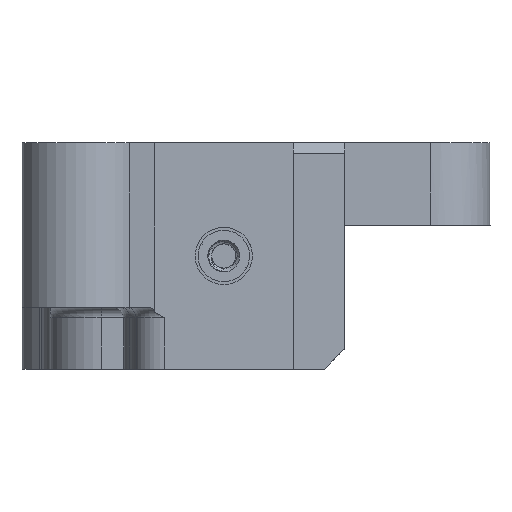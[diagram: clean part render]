
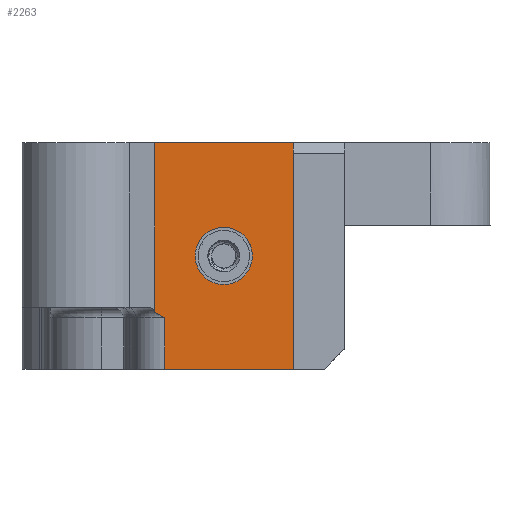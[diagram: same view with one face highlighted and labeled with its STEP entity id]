
A CAD part, front view. The second image highlights one B-rep face of the part: STEP entity #2263.
In plain terms, the highlighted planar face has unit normal (0, -1, 0).
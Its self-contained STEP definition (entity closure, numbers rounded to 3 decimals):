
#2230=AXIS2_PLACEMENT_3D('Plane Axis2P3D',#2227,#2228,#2229) ;
#2247=AXIS2_PLACEMENT_3D('Circle Axis2P3D',#2245,#2246,$) ;
#2256=AXIS2_PLACEMENT_3D('Circle Axis2P3D',#2254,#2255,$) ;
#434=CARTESIAN_POINT('Vertex',(20.64,-16.8,0.)) ;
#437=CARTESIAN_POINT('Line Origine',(14.392,-16.8,0.)) ;
#441=CARTESIAN_POINT('Vertex',(8.144,-16.8,0.)) ;
#490=CARTESIAN_POINT('Vertex',(20.64,-16.8,22.)) ;
#493=CARTESIAN_POINT('Line Origine',(20.64,-16.8,11.)) ;
#896=CARTESIAN_POINT('Vertex',(7.159,-16.8,22.)) ;
#919=CARTESIAN_POINT('Vertex',(7.159,-16.8,5.538)) ;
#922=CARTESIAN_POINT('Line Origine',(7.159,-16.8,13.769)) ;
#1360=CARTESIAN_POINT('Control Point',(7.159,-16.8,5.538)) ;
#1361=CARTESIAN_POINT('Control Point',(7.502,-16.8,5.371)) ;
#1362=CARTESIAN_POINT('Control Point',(7.823,-16.8,5.185)) ;
#1363=CARTESIAN_POINT('Control Point',(8.144,-16.8,5.)) ;
#1364=CARTESIAN_POINT('Vertex',(8.144,-16.8,5.)) ;
#1390=CARTESIAN_POINT('Line Origine',(8.144,-16.8,2.34)) ;
#2227=CARTESIAN_POINT('Axis2P3D Location',(20.64,-16.8,22.)) ;
#2232=CARTESIAN_POINT('Line Origine',(13.9,-16.8,22.)) ;
#2245=CARTESIAN_POINT('Axis2P3D Location',(13.88,-16.8,11.)) ;
#2249=CARTESIAN_POINT('Vertex',(16.074,-16.8,9.801)) ;
#2251=CARTESIAN_POINT('Vertex',(11.686,-16.8,12.199)) ;
#2254=CARTESIAN_POINT('Axis2P3D Location',(13.88,-16.8,11.)) ;
#438=DIRECTION('Vector Direction',(-1.,0.,0.)) ;
#494=DIRECTION('Vector Direction',(0.,0.,-1.)) ;
#923=DIRECTION('Vector Direction',(0.,0.,1.)) ;
#1391=DIRECTION('Vector Direction',(0.,0.,-1.)) ;
#2228=DIRECTION('Axis2P3D Direction',(0.,-1.,0.)) ;
#2229=DIRECTION('Axis2P3D XDirection',(-1.,0.,0.)) ;
#2233=DIRECTION('Vector Direction',(-1.,0.,0.)) ;
#2246=DIRECTION('Axis2P3D Direction',(0.,-1.,0.)) ;
#2255=DIRECTION('Axis2P3D Direction',(0.,-1.,0.)) ;
#439=VECTOR('Line Direction',#438,1.) ;
#495=VECTOR('Line Direction',#494,1.) ;
#924=VECTOR('Line Direction',#923,1.) ;
#1392=VECTOR('Line Direction',#1391,1.) ;
#2234=VECTOR('Line Direction',#2233,1.) ;
#2238=ORIENTED_EDGE('',*,*,#1366,.T.) ;
#2239=ORIENTED_EDGE('',*,*,#1394,.T.) ;
#2240=ORIENTED_EDGE('',*,*,#443,.T.) ;
#2241=ORIENTED_EDGE('',*,*,#497,.F.) ;
#2242=ORIENTED_EDGE('',*,*,#2236,.F.) ;
#2243=ORIENTED_EDGE('',*,*,#926,.F.) ;
#2260=ORIENTED_EDGE('',*,*,#2253,.F.) ;
#2261=ORIENTED_EDGE('',*,*,#2258,.F.) ;
#2262=FACE_BOUND('',#2259,.T.) ;
#2263=ADVANCED_FACE('Inserti',(#2244,#2262),#2231,.T.) ;
#1359=B_SPLINE_CURVE_WITH_KNOTS('',3,(#1360,#1361,#1362,#1363),.UNSPECIFIED.,.F.,.U.,(4,4),(0.,1.786),.UNSPECIFIED.) ;
#2248=CIRCLE('generated circle',#2247,2.5) ;
#2257=CIRCLE('generated circle',#2256,2.5) ;
#443=EDGE_CURVE('',#442,#435,#440,.F.) ;
#497=EDGE_CURVE('',#491,#435,#496,.T.) ;
#926=EDGE_CURVE('',#920,#897,#925,.T.) ;
#1366=EDGE_CURVE('',#920,#1365,#1359,.T.) ;
#1394=EDGE_CURVE('',#1365,#442,#1393,.T.) ;
#2236=EDGE_CURVE('',#897,#491,#2235,.F.) ;
#2253=EDGE_CURVE('',#2250,#2252,#2248,.T.) ;
#2258=EDGE_CURVE('',#2252,#2250,#2257,.T.) ;
#2237=EDGE_LOOP('',(#2238,#2239,#2240,#2241,#2242,#2243)) ;
#2259=EDGE_LOOP('',(#2260,#2261)) ;
#2244=FACE_OUTER_BOUND('',#2237,.T.) ;
#440=LINE('Line',#437,#439) ;
#496=LINE('Line',#493,#495) ;
#925=LINE('Line',#922,#924) ;
#1393=LINE('Line',#1390,#1392) ;
#2235=LINE('Line',#2232,#2234) ;
#2231=PLANE('',#2230) ;
#435=VERTEX_POINT('',#434) ;
#442=VERTEX_POINT('',#441) ;
#491=VERTEX_POINT('',#490) ;
#897=VERTEX_POINT('',#896) ;
#920=VERTEX_POINT('',#919) ;
#1365=VERTEX_POINT('',#1364) ;
#2250=VERTEX_POINT('',#2249) ;
#2252=VERTEX_POINT('',#2251) ;
